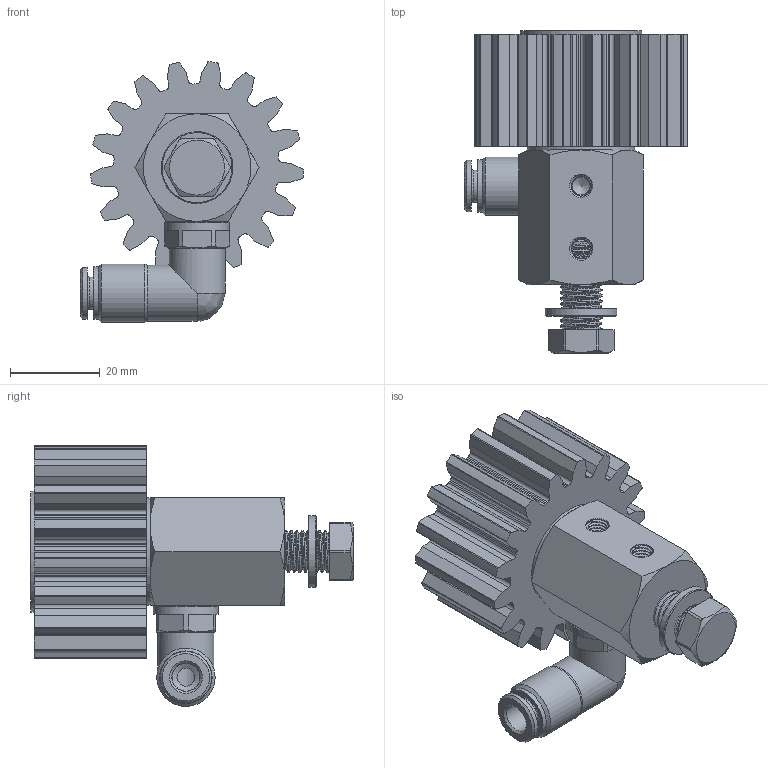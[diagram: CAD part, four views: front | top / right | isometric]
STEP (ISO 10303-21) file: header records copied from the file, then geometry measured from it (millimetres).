
FILE_DESCRIPTION (( 'STEP AP214' ), '1' );
FILE_NAME ('012_13_025_25_17BZ.STEP', '2026-04-08T12:24:29', ( '' ), ( '' ), 'SwSTEP 2.0', 'SolidWorks 2022', '' );
FILE_SCHEMA (( 'AUTOMOTIVE_DESIGN' ));
Length unit declared in the file: millimetre
Products named in the file (13): 12012_06_01_Scheibe-CRS-VA_27.SLDASM; Schmierzahnrad_025_25_17_G; Schraube_M8_20; DR6-C_HDX_25.07.16_1; RH202242; OR 7.2X1.9_1; RIVOLUZIONE_0_2; 012_06_Senkschraube; U_Scheibe_8,4; 012_13b_01_winklige_Achse_lang_M8_1; 12012_06_00_Scheibe-CRS-VA.SLDASM; 012_13_025_25_17BZ; H202242_HDS022_6_M10X1_08.05.17(1)
Assembly tree (12 placements, depth 3):
  012_13_025_25_17BZ
    012_13b_01_winklige_Achse_lang_M8_1
    Schraube_M8_20
    U_Scheibe_8,4
    H202242_HDS022_6_M10X1_08.05.17(1)
      OR 7.2X1.9_1
      RH202242
      DR6-C_HDX_25.07.16_1
      RIVOLUZIONE_0_2
    12012_06_00_Scheibe-CRS-VA.SLDASM
    12012_06_01_Scheibe-CRS-VA_27.SLDASM
    012_06_Senkschraube
    Schmierzahnrad_025_25_17_G
Bounding box: 49.75 x 71.9 x 58.11 mm (x, y, z)
Volume: 55223.8 mm3; surface area: 23087.5 mm2
Topology: 11 solids, 11 shells, 734 faces, 2013 edges, 1335 vertices
Faces by surface type: plane 420, cylinder 141, bspline 116, cone 54, torus 3
Full cylindrical faces by diameter (mm): 3 x1, 4 x2, 5.5 x1, 6 x1, 6.2 x1, 6.3 x1, 6.5 x1, 7.2 x1, 8.4 x1, 8.5 x1, 9 x10, 9.9 x1, 10 x3, 10.1 x2, 10.3 x1, 11.5 x1, 11.7 x1, 12.5 x2, 13 x1, 14.5 x1, 16 x1, 24 x1, 27 x1
Entity records: 45206 total; most frequent: CARTESIAN_POINT 26869, ORIENTED_EDGE 3730, DIRECTION 3063, EDGE_CURVE 1865, VERTEX_POINT 1270, LINE 1181, VECTOR 1181, AXIS2_PLACEMENT_3D 941
